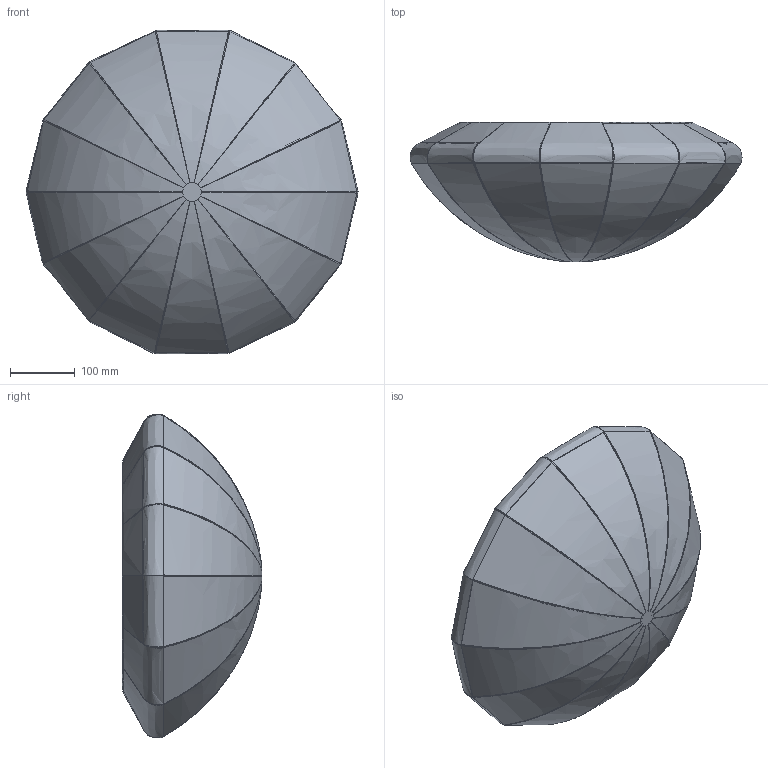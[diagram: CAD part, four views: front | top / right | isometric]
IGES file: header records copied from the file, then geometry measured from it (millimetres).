
Start section: SolidWorks IGES file using analytic representation for surfaces
Global section: file name: E:\_DESIGN\NOWOŒCI\FORM\Form_plafon_9673\Form 9673.IGS; native system: SolidWorks 2016; preprocessor: SolidWorks 2016; author: Asia; date: 170421.115230; units: millimetre
Bounding box: 511.39 x 214.78 x 499.07 mm (x, y, z)
Surface area: 1326065.3 mm2 (no closed solid volume)
Topology: 0 solids, 0 shells, 1275 faces, 12415 edges, 12392 vertices
Faces by surface type: bspline 798, revolution 477
